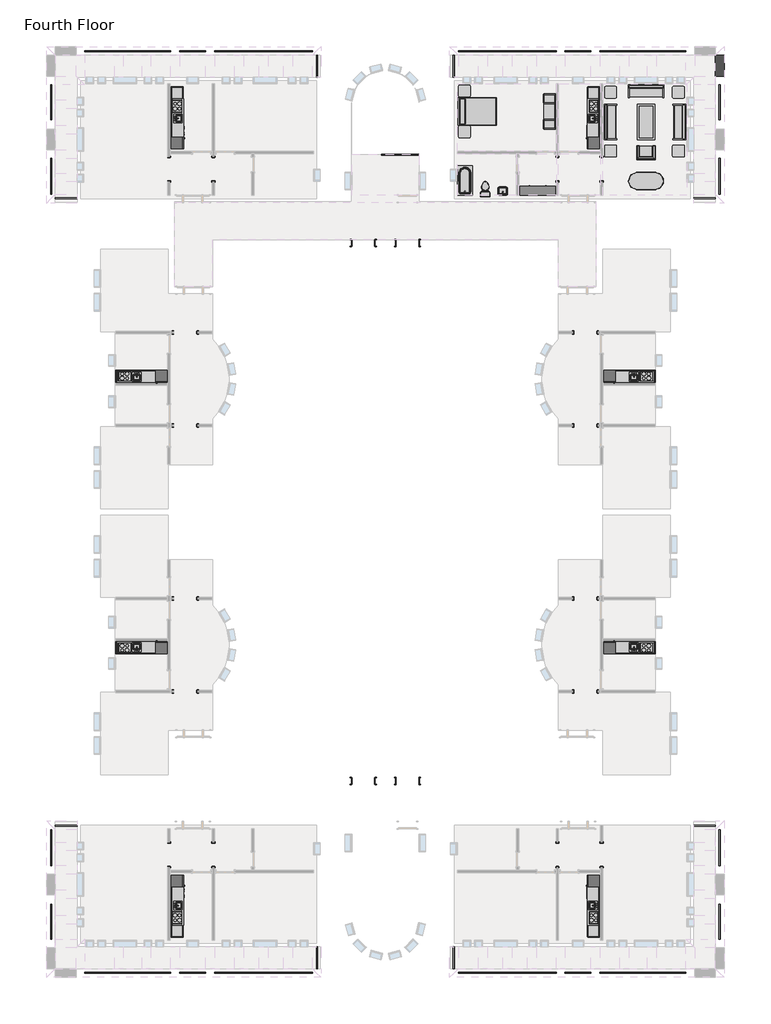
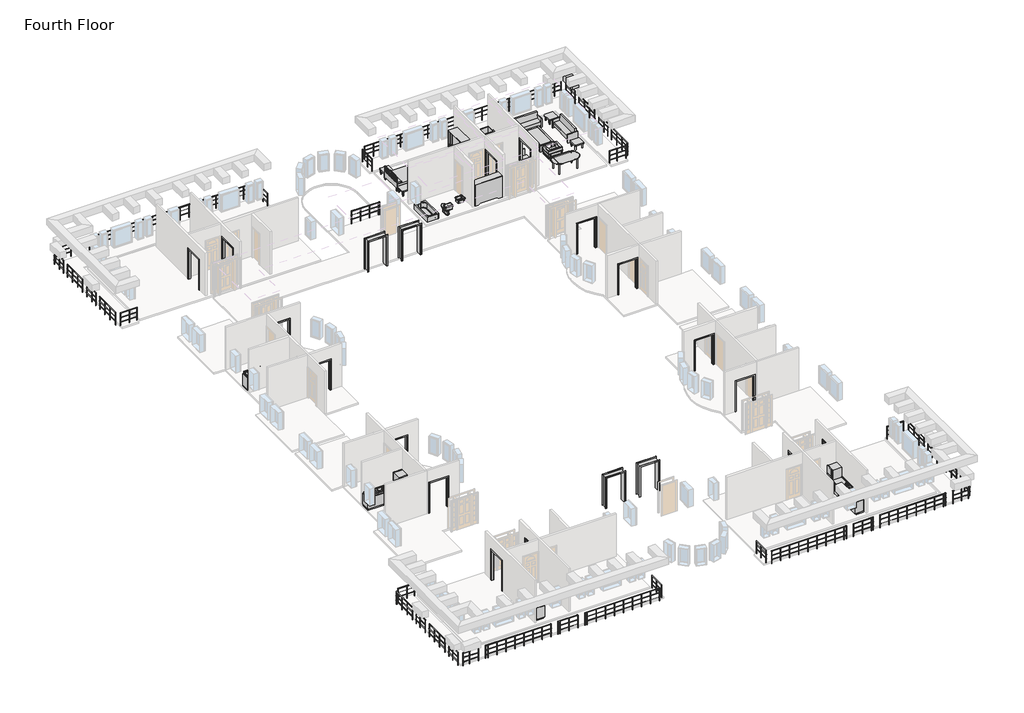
# One storey, part 5 of 5: 41 railings, 28 proxies, 15 furniture elements, 3 flow terminals, 1 beam.
"""IFC4 building model written with IfcOpenShell, lengths in millimetres."""

from ifc_helpers import new_model, si_unit, origin, place, context, project, spatial, faceted_brep, transform, mapped, element, save
from components import kitchenette_medium_5_9f73a4de, kitchenette_medium_5_952fb32b, proxy_64a468c4, proxy_b7eaed23, proxy_f44482cc, proxy_c3589814, proxy_d58c73d0, proxy_1659ed5c, flow_terminal_0aeb31e3, toilet_domestic_3d_toilet_domestic_3d_f7549cf7, toilet_domestic_3d_toilet_domestic_3d_183bbd19, tub_rectangular_3d_tub_rectangular_3d_5e45a89b, furniture_096e7f55, chair_corbu_chair_corbu_2764bdef, furniture_7c473f12, furniture_ddc78764, furniture_4ef38d96, furniture_cd93a443, furniture_2c34a4f9, furniture_3a588284, furniture_1befe2a2, handrail_rectangular_d1ca25f8, handrail_rectangular_875d33ba, handrail_rectangular_8bc6fbf6, handrail_rectangular_67571a7d, handrail_rectangular_91c8e9b7, handrail_rectangular_6d217318, handrail_rectangular_7e8bea4f, handrail_rectangular_05f14369, handrail_rectangular_2b1cd781, handrail_rectangular_ba614922, handrail_rectangular_85729334, handrail_rectangular_566bf06c, handrail_rectangular_c8469efc, handrail_rectangular_7fa22d97, handrail_rectangular_886fd0c0, handrail_rectangular_e9c0440f, handrail_rectangular_f802c7a6, handrail_rectangular_9a0f738c, handrail_rectangular_cdd016d1, handrail_rectangular_cacec26f, handrail_rectangular_1d374aff, handrail_rectangular_959c32e3, handrail_rectangular_5dab1a18, handrail_rectangular_501bc58b, handrail_rectangular_beab0f10, handrail_rectangular_068176ca, handrail_rectangular_d618f92a, handrail_rectangular_e16eda03, handrail_rectangular_b5dfc41f, handrail_rectangular_314316ab, handrail_rectangular_3d0c2979, handrail_rectangular_0d4586ac, handrail_rectangular_8255650b, handrail_rectangular_58c217f0, handrail_rectangular_f862a09f, handrail_rectangular_01a8bc3c, handrail_rectangular_d5c45918, handrail_rectangular_7ab70122, handrail_rectangular_3dd2ecd6, handrail_rectangular_2b43632d, handrail_rectangular_4e911a37

model = new_model("IFC4")

# Units and contexts
model_context = context("Model", 3, world=origin())
ifc_project = project(units=[si_unit("LENGTHUNIT", "METRE", prefix="MILLI")], contexts=[model_context])

# Site, building, storey
site = spatial("IfcSite", under=ifc_project)
building = spatial("IfcBuilding", under=site)
storey = spatial("IfcBuildingStorey", under=building, Name="Fourth Floor", Elevation=9144.0)

# Beam
placement = place(None, origin())
element("IfcBeam", 1, ObjectType="Concrete-Rectangular Beam : 18 x 18", at=placement, inside=storey, context=model_context, shape_type="Brep", body=[
    faceted_brep([(2551.1410437, 10674.8316867, 10668.0), (2093.9410437, 10674.8316867, 10668.0), (2093.9410437, 10674.8316867, 10210.8), (2551.1410437, 10674.8316867, 10210.8), (2551.1410437, 11754.3316867, 10668.0), (2551.1410437, 11754.3316867, 10210.8), (2093.9410437, 11754.3316867, 10210.8), (2093.9410437, 11754.3316867, 10668.0), (2093.9410437, 11741.6316867, 10668.0), (2093.9410437, 11741.6316867, 10210.8)], [[[0, 1, 2, 3]], [[4, 5, 6, 7]], [[1, 0, 4, 7, 8]], [[2, 1, 8, 7, 6, 9]], [[3, 2, 9, 6, 5]], [[0, 3, 5, 4]]]),
])

# Proxies
kitchenette_medium_5_shape = kitchenette_medium_5_9f73a4de(model_context)
element("IfcBuildingElementProxy", 2, Name="Kitchenette - Medium : 5'", ObjectType="Kitchenette - Medium : 5'", at=placement, inside=storey, context=model_context, shape_type="MappedRepresentation", body=[
    mapped(kitchenette_medium_5_shape, transform((-28112.6966612, -4494.4827414, 9144.0), x_axis=(1.0, 0.0, 0.0), y_axis=(0.0, 1.0, 0.0), z_axis=(0.0, 0.0, 1.0))),
])
element("IfcBuildingElementProxy", 3, Name="Kitchenette - Medium : 5'", ObjectType="Kitchenette - Medium : 5'", at=placement, inside=storey, context=model_context, shape_type="MappedRepresentation", body=[
    mapped(kitchenette_medium_5_shape, transform((-1757.6462514, -19113.8538852, 9144.0), x_axis=(-1.0, 0.0, 0.0), y_axis=(0.0, -1.0, 0.0), z_axis=(0.0, 0.0, 1.0))),
])
kitchenette_medium_5_2_shape = kitchenette_medium_5_952fb32b(model_context)
element("IfcBuildingElementProxy", 4, Name="Kitchenette - Medium : 5'", ObjectType="Kitchenette - Medium : 5'", at=placement, inside=storey, context=model_context, shape_type="MappedRepresentation", body=[
    mapped(kitchenette_medium_5_2_shape, transform((-1757.6462514, -4494.4827414, 9144.0), x_axis=(-1.0, 0.0, 0.0), y_axis=(0.0, -1.0, 0.0), z_axis=(0.0, 0.0, 1.0))),
])
element("IfcBuildingElementProxy", 5, Name="Kitchenette - Medium : 5'", ObjectType="Kitchenette - Medium : 5'", at=placement, inside=storey, context=model_context, shape_type="MappedRepresentation", body=[
    mapped(kitchenette_medium_5_2_shape, transform((-28112.6966612, -19113.8538852, 9144.0), x_axis=(1.0, 0.0, 0.0), y_axis=(0.0, 1.0, 0.0), z_axis=(0.0, 0.0, 1.0))),
])
proxy_shape = proxy_64a468c4(model_context)
element("IfcBuildingElementProxy", 6, Name="Kitchenette - Medium : 8'6\"", ObjectType="Kitchenette - Medium : 8'6\"", at=placement, inside=storey, context=model_context, shape_type="MappedRepresentation", body=[
    mapped(proxy_shape, transform((-3887.7589563, 8837.7956433, 9144.0), x_axis=(0.0, -1.0, 0.0), y_axis=(1.0, 0.0, 0.0), z_axis=(0.0, 0.0, 1.0))),
])
element("IfcBuildingElementProxy", 7, Name="Kitchenette - Medium : 8'6\"", ObjectType="Kitchenette - Medium : 8'6\"", at=placement, inside=storey, context=model_context, shape_type="MappedRepresentation", body=[
    mapped(proxy_shape, transform((-25982.5839563, -32446.1322699, 9144.0), x_axis=(0.0, 1.0, 0.0), y_axis=(-1.0, 0.0, 0.0), z_axis=(0.0, 0.0, 1.0))),
])
proxy_2_shape = proxy_b7eaed23(model_context)
element("IfcBuildingElementProxy", 8, Name="Kitchenette - Medium : 8'6\"", ObjectType="Kitchenette - Medium : 8'6\"", at=placement, inside=storey, context=model_context, shape_type="MappedRepresentation", body=[
    mapped(proxy_2_shape, transform((-25982.5839563, 8837.7956433, 9144.0), x_axis=(0.0, -1.0, 0.0), y_axis=(1.0, 0.0, 0.0), z_axis=(0.0, 0.0, 1.0))),
])
element("IfcBuildingElementProxy", 9, Name="Kitchenette - Medium : 8'6\"", ObjectType="Kitchenette - Medium : 8'6\"", at=placement, inside=storey, context=model_context, shape_type="MappedRepresentation", body=[
    mapped(proxy_2_shape, transform((-3887.7589563, -32446.1322699, 9144.0), x_axis=(0.0, 1.0, 0.0), y_axis=(-1.0, 0.0, 0.0), z_axis=(0.0, 0.0, 1.0))),
])
proxy_3_shape = proxy_f44482cc(model_context)
element("IfcBuildingElementProxy", 10, Name="Opening-Cased : 48\" x 84\"", ObjectType="Opening-Cased : 48\" x 84\"", at=placement, inside=storey, context=model_context, shape_type="MappedRepresentation", body=[
    mapped(proxy_3_shape, transform((-3773.4589563, 5882.4203434, 9144.0), x_axis=(0.0, 1.0, 0.0), y_axis=(-1.0, 0.0, 0.0), z_axis=(0.0, 0.0, 1.0))),
])
element("IfcBuildingElementProxy", 11, Name="Opening-Cased : 48\" x 84\"", ObjectType="Opening-Cased : 48\" x 84\"", at=placement, inside=storey, context=model_context, shape_type="MappedRepresentation", body=[
    mapped(proxy_3_shape, transform((-6059.4589563, 5866.04303, 9144.0), x_axis=(0.0, -1.0, 0.0), y_axis=(1.0, 0.0, 0.0), z_axis=(0.0, 0.0, 1.0))),
])
element("IfcBuildingElementProxy", 12, Name="Opening-Cased : 48\" x 84\"", ObjectType="Opening-Cased : 48\" x 84\"", at=placement, inside=storey, context=model_context, shape_type="MappedRepresentation", body=[
    mapped(proxy_3_shape, transform((-25250.4952996, -7344.8808133, 9144.0), x_axis=(1.0, 0.0, 0.0), y_axis=(0.0, 1.0, 0.0), z_axis=(0.0, 0.0, 1.0))),
])
element("IfcBuildingElementProxy", 13, Name="Opening-Cased : 48\" x 84\"", ObjectType="Opening-Cased : 48\" x 84\"", at=placement, inside=storey, context=model_context, shape_type="MappedRepresentation", body=[
    mapped(proxy_3_shape, transform((-25266.872613, -2547.4558133, 9144.0), x_axis=(-1.0, 0.0, 0.0), y_axis=(0.0, -1.0, 0.0), z_axis=(0.0, 0.0, 1.0))),
])
element("IfcBuildingElementProxy", 14, Name="Opening-Cased : 48\" x 84\"", ObjectType="Opening-Cased : 48\" x 84\"", at=placement, inside=storey, context=model_context, shape_type="MappedRepresentation", body=[
    mapped(proxy_3_shape, transform((-4619.847613, -16263.4558133, 9144.0), x_axis=(-1.0, 0.0, 0.0), y_axis=(0.0, -1.0, 0.0), z_axis=(0.0, 0.0, 1.0))),
])
element("IfcBuildingElementProxy", 15, Name="Opening-Cased : 48\" x 84\"", ObjectType="Opening-Cased : 48\" x 84\"", at=placement, inside=storey, context=model_context, shape_type="MappedRepresentation", body=[
    mapped(proxy_3_shape, transform((-4603.4702996, -21060.8808133, 9144.0), x_axis=(1.0, 0.0, 0.0), y_axis=(0.0, 1.0, 0.0), z_axis=(0.0, 0.0, 1.0))),
])
element("IfcBuildingElementProxy", 16, Name="Opening-Cased : 48\" x 84\"", ObjectType="Opening-Cased : 48\" x 84\"", at=placement, inside=storey, context=model_context, shape_type="MappedRepresentation", body=[
    mapped(proxy_3_shape, transform((-26096.8839563, -29490.75697, 9144.0), x_axis=(0.0, -1.0, 0.0), y_axis=(1.0, 0.0, 0.0), z_axis=(0.0, 0.0, 1.0))),
])
element("IfcBuildingElementProxy", 17, Name="Opening-Cased : 48\" x 84\"", ObjectType="Opening-Cased : 48\" x 84\"", at=placement, inside=storey, context=model_context, shape_type="MappedRepresentation", body=[
    mapped(proxy_3_shape, transform((-23810.8839563, -29474.3796566, 9144.0), x_axis=(0.0, 1.0, 0.0), y_axis=(-1.0, 0.0, 0.0), z_axis=(0.0, 0.0, 1.0))),
])
proxy_4_shape = proxy_c3589814(model_context)
element("IfcBuildingElementProxy", 18, Name="Opening-Cased : 48\" x 84\"", ObjectType="Opening-Cased : 48\" x 84\"", at=placement, inside=storey, context=model_context, shape_type="MappedRepresentation", body=[
    mapped(proxy_4_shape, transform((-16086.360113, 2064.2316867, 9144.0), x_axis=(-1.0, 0.0, 0.0), y_axis=(0.0, -1.0, 0.0), z_axis=(0.0, 0.0, 1.0))),
])
element("IfcBuildingElementProxy", 19, Name="Opening-Cased : 48\" x 84\"", ObjectType="Opening-Cased : 48\" x 84\"", at=placement, inside=storey, context=model_context, shape_type="MappedRepresentation", body=[
    mapped(proxy_4_shape, transform((-13800.360113, 2064.2316867, 9144.0), x_axis=(-1.0, 0.0, 0.0), y_axis=(0.0, -1.0, 0.0), z_axis=(0.0, 0.0, 1.0))),
])
proxy_5_shape = proxy_d58c73d0(model_context)
element("IfcBuildingElementProxy", 20, Name="Opening-Cased : 48\" x 84\"", ObjectType="Opening-Cased : 48\" x 84\"", at=placement, inside=storey, context=model_context, shape_type="MappedRepresentation", body=[
    mapped(proxy_5_shape, transform((-4619.847613, -7344.8808133, 9144.0), x_axis=(-1.0, 0.0, 0.0), y_axis=(0.0, -1.0, 0.0), z_axis=(0.0, 0.0, 1.0))),
])
element("IfcBuildingElementProxy", 21, Name="Opening-Cased : 48\" x 84\"", ObjectType="Opening-Cased : 48\" x 84\"", at=placement, inside=storey, context=model_context, shape_type="MappedRepresentation", body=[
    mapped(proxy_5_shape, transform((-4603.4702996, -2547.4558133, 9144.0), x_axis=(1.0, 0.0, 0.0), y_axis=(0.0, 1.0, 0.0), z_axis=(0.0, 0.0, 1.0))),
])
element("IfcBuildingElementProxy", 22, Name="Opening-Cased : 48\" x 84\"", ObjectType="Opening-Cased : 48\" x 84\"", at=placement, inside=storey, context=model_context, shape_type="MappedRepresentation", body=[
    mapped(proxy_5_shape, transform((-26096.8839563, 5882.4203434, 9144.0), x_axis=(0.0, 1.0, 0.0), y_axis=(-1.0, 0.0, 0.0), z_axis=(0.0, 0.0, 1.0))),
])
element("IfcBuildingElementProxy", 23, Name="Opening-Cased : 48\" x 84\"", ObjectType="Opening-Cased : 48\" x 84\"", at=placement, inside=storey, context=model_context, shape_type="MappedRepresentation", body=[
    mapped(proxy_5_shape, transform((-23810.8839563, 5866.04303, 9144.0), x_axis=(0.0, -1.0, 0.0), y_axis=(1.0, 0.0, 0.0), z_axis=(0.0, 0.0, 1.0))),
])
element("IfcBuildingElementProxy", 24, Name="Opening-Cased : 48\" x 84\"", ObjectType="Opening-Cased : 48\" x 84\"", at=placement, inside=storey, context=model_context, shape_type="MappedRepresentation", body=[
    mapped(proxy_5_shape, transform((-3773.4589563, -29490.75697, 9144.0), x_axis=(0.0, -1.0, 0.0), y_axis=(1.0, 0.0, 0.0), z_axis=(0.0, 0.0, 1.0))),
])
element("IfcBuildingElementProxy", 25, Name="Opening-Cased : 48\" x 84\"", ObjectType="Opening-Cased : 48\" x 84\"", at=placement, inside=storey, context=model_context, shape_type="MappedRepresentation", body=[
    mapped(proxy_5_shape, transform((-6059.4589563, -29474.3796566, 9144.0), x_axis=(0.0, 1.0, 0.0), y_axis=(-1.0, 0.0, 0.0), z_axis=(0.0, 0.0, 1.0))),
])
element("IfcBuildingElementProxy", 26, Name="Opening-Cased : 48\" x 84\"", ObjectType="Opening-Cased : 48\" x 84\"", at=placement, inside=storey, context=model_context, shape_type="MappedRepresentation", body=[
    mapped(proxy_5_shape, transform((-25250.4952996, -16263.4558133, 9144.0), x_axis=(1.0, 0.0, 0.0), y_axis=(0.0, 1.0, 0.0), z_axis=(0.0, 0.0, 1.0))),
])
element("IfcBuildingElementProxy", 27, Name="Opening-Cased : 48\" x 84\"", ObjectType="Opening-Cased : 48\" x 84\"", at=placement, inside=storey, context=model_context, shape_type="MappedRepresentation", body=[
    mapped(proxy_5_shape, transform((-25266.872613, -21060.8808133, 9144.0), x_axis=(-1.0, 0.0, 0.0), y_axis=(0.0, -1.0, 0.0), z_axis=(0.0, 0.0, 1.0))),
])
proxy_6_shape = proxy_1659ed5c(model_context)
element("IfcBuildingElementProxy", 28, Name="Opening-Cased : 48\" x 84\"", ObjectType="Opening-Cased : 48\" x 84\"", at=placement, inside=storey, context=model_context, shape_type="MappedRepresentation", body=[
    mapped(proxy_6_shape, transform((-16086.360113, -25672.5683133, 9144.0), x_axis=(-1.0, 0.0, 0.0), y_axis=(0.0, -1.0, 0.0), z_axis=(0.0, 0.0, 1.0))),
])
element("IfcBuildingElementProxy", 29, Name="Opening-Cased : 48\" x 84\"", ObjectType="Opening-Cased : 48\" x 84\"", at=placement, inside=storey, context=model_context, shape_type="MappedRepresentation", body=[
    mapped(proxy_6_shape, transform((-13800.360113, -25672.5683133, 9144.0), x_axis=(-1.0, 0.0, 0.0), y_axis=(0.0, -1.0, 0.0), z_axis=(0.0, 0.0, 1.0))),
])

# Flow terminals
flow_terminal_shape = flow_terminal_0aeb31e3(model_context)
element("IfcFlowTerminal", 30, ObjectType="Sink Vanity-Square : 24\" x 19\"", at=placement, inside=storey, context=model_context, shape_type="MappedRepresentation", body=[
    mapped(flow_terminal_shape, transform((-8864.7572157, 4706.5895878, 9144.0), x_axis=(-1.0, 0.0, 0.0), y_axis=(0.0, -1.0, 0.0), z_axis=(0.0, 0.0, 1.0))),
])
toilet_domestic_3d_toilet_domestic_3d_shape = toilet_domestic_3d_toilet_domestic_3d_f7549cf7(model_context)
toilet_domestic_3d_toilet_domestic_3d_2_shape = toilet_domestic_3d_toilet_domestic_3d_183bbd19(model_context)
element("IfcFlowTerminal", 31, ObjectType="Toilet-Domestic-3D : Toilet-Domestic-3D", at=placement, inside=storey, context=model_context, shape_type="MappedRepresentation", body=[
    mapped(toilet_domestic_3d_toilet_domestic_3d_shape, transform((-9782.1466587, 4940.866411, 9144.0), x_axis=(-1.0000000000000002, 0.0, 0.0), y_axis=(0.0, -1.0000000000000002, 0.0), z_axis=(0.0, 0.0, 1.0))),
    mapped(toilet_domestic_3d_toilet_domestic_3d_2_shape, transform((-9782.1466587, 4940.866411, 9144.0), x_axis=(-1.0000000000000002, 0.0, 0.0), y_axis=(0.0, -1.0000000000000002, 0.0), z_axis=(0.0, 0.0, 1.0))),
])
tub_rectangular_3d_tub_rectangular_3d_shape = tub_rectangular_3d_tub_rectangular_3d_5e45a89b(model_context)
element("IfcFlowTerminal", 32, ObjectType="Tub-Rectangular-3D : Tub-Rectangular-3D", at=placement, inside=storey, context=model_context, shape_type="MappedRepresentation", body=[
    mapped(tub_rectangular_3d_tub_rectangular_3d_shape, transform((-11393.4589563, 5637.0471554, 9144.0), x_axis=(0.0, 1.0, 0.0), y_axis=(-1.0, 0.0, 0.0), z_axis=(0.0, 0.0, 1.0))),
])

# Furniture
furniture_shape = furniture_096e7f55(model_context)
element("IfcFurniture", 33, ObjectType="Bed-Shaker : Double 56\" x 78\"", at=placement, inside=storey, context=model_context, shape_type="MappedRepresentation", body=[
    mapped(furniture_shape, transform((-11183.1982802, 8871.8755561, 9144.0), x_axis=(0.0, 1.0, 0.0), y_axis=(-1.0, 0.0, 0.0), z_axis=(0.0, 0.0, 1.0))),
])
chair_corbu_chair_corbu_shape = chair_corbu_chair_corbu_2764bdef(model_context)
element("IfcFurniture", 34, ObjectType="Chair-Corbu : Chair-Corbu", at=placement, inside=storey, context=model_context, shape_type="MappedRepresentation", body=[
    mapped(chair_corbu_chair_corbu_shape, transform((-914.0851858, 7193.4962359, 9144.0), x_axis=(-1.0, 0.0, 0.0), y_axis=(0.0, -1.0, 0.0), z_axis=(0.0, 0.0, 1.0))),
])
furniture_2_shape = furniture_7c473f12(model_context)
element("IfcFurniture", 35, ObjectType="Dresser : 72\" x 60\" x 18\"", at=placement, inside=storey, context=model_context, shape_type="MappedRepresentation", body=[
    mapped(furniture_2_shape, transform((-7344.6522161, 4404.5812326, 9144.0), x_axis=(-1.0, 0.0, 0.0), y_axis=(0.0, -1.0, 0.0), z_axis=(0.0, 0.0, 1.0))),
])
furniture_3_shape = furniture_ddc78764(model_context)
element("IfcFurniture", 36, ObjectType="Entertainment Center : 72\" x 72\" x 24\"", at=placement, inside=storey, context=model_context, shape_type="MappedRepresentation", body=[
    mapped(furniture_3_shape, transform((-6059.4589563, 8852.8255561, 9144.0), x_axis=(0.0, -1.0, 0.0), y_axis=(1.0, 0.0, 0.0), z_axis=(0.0, 0.0, 1.0))),
])
furniture_4_shape = furniture_4ef38d96(model_context)
element("IfcFurniture", 37, ObjectType="Sofa : 72\"", at=placement, inside=storey, context=model_context, shape_type="MappedRepresentation", body=[
    mapped(furniture_4_shape, transform((-1557.8294481, 9741.2775883, 9144.0), x_axis=(1.0, 0.0, 0.0), y_axis=(0.0, 1.0, 0.0), z_axis=(0.0, 0.0, 1.0))),
])
element("IfcFurniture", 38, ObjectType="Sofa : 72\"", at=placement, inside=storey, context=model_context, shape_type="MappedRepresentation", body=[
    mapped(furniture_4_shape, transform((93.5869453, 8383.0021785, 9144.0), x_axis=(0.0, -1.0, 0.0), y_axis=(1.0, 0.0, 0.0), z_axis=(0.0, 0.0, 1.0))),
])
element("IfcFurniture", 39, ObjectType="Sofa : 72\"", at=placement, inside=storey, context=model_context, shape_type="MappedRepresentation", body=[
    mapped(furniture_4_shape, transform((-3170.104858, 8242.2611949, 9144.0), x_axis=(0.0, 1.0, 0.0), y_axis=(-1.0, 0.0, 0.0), z_axis=(0.0, 0.0, 1.0))),
])
furniture_5_shape = furniture_cd93a443(model_context)
element("IfcFurniture", 40, ObjectType="Table-Coffee : 36\" x 72\" x 18\"", at=placement, inside=storey, context=model_context, shape_type="MappedRepresentation", body=[
    mapped(furniture_5_shape, transform((-1582.6700341, 8330.8974534, 9144.0), x_axis=(0.0, -1.0, 0.0), y_axis=(1.0, 0.0, 0.0), z_axis=(0.0, 0.0, 1.0))),
])
furniture_6_shape = furniture_2c34a4f9(model_context)
element("IfcFurniture", 41, ObjectType="Table-Dining Oval : 36\" x 72\"", at=placement, inside=storey, context=model_context, shape_type="MappedRepresentation", body=[
    mapped(furniture_6_shape, transform((-1085.6392842, 5622.7300473, 9144.0), x_axis=(1.0, 0.0, 0.0), y_axis=(0.0, 1.0, 0.0), z_axis=(0.0, 0.0, 1.0))),
])
furniture_7_shape = furniture_3a588284(model_context)
element("IfcFurniture", 42, ObjectType="Table-End : 24\" x 24\"", at=placement, inside=storey, context=model_context, shape_type="MappedRepresentation", body=[
    mapped(furniture_7_shape, transform((-119.5925866, 9684.2316867, 9144.0), x_axis=(1.0, 0.0, 0.0), y_axis=(0.0, 1.0, 0.0), z_axis=(0.0, 0.0, 1.0))),
])
element("IfcFurniture", 43, ObjectType="Table-End : 24\" x 24\"", at=placement, inside=storey, context=model_context, shape_type="MappedRepresentation", body=[
    mapped(furniture_7_shape, transform((-3624.7925866, 9684.2316867, 9144.0), x_axis=(1.0, 0.0, 0.0), y_axis=(0.0, 1.0, 0.0), z_axis=(0.0, 0.0, 1.0))),
])
element("IfcFurniture", 44, ObjectType="Table-End : 24\" x 24\"", at=placement, inside=storey, context=model_context, shape_type="MappedRepresentation", body=[
    mapped(furniture_7_shape, transform((-3624.7925866, 6660.0441867, 9144.0), x_axis=(1.0, 0.0, 0.0), y_axis=(0.0, 1.0, 0.0), z_axis=(0.0, 0.0, 1.0))),
])
element("IfcFurniture", 45, ObjectType="Table-End : 24\" x 24\"", at=placement, inside=storey, context=model_context, shape_type="MappedRepresentation", body=[
    mapped(furniture_7_shape, transform((-119.5925866, 6660.0441867, 9144.0), x_axis=(1.0, 0.0, 0.0), y_axis=(0.0, 1.0, 0.0), z_axis=(0.0, 0.0, 1.0))),
])
element("IfcFurniture", 46, ObjectType="Table-End : 24\" x 24\"", at=placement, inside=storey, context=model_context, shape_type="MappedRepresentation", body=[
    mapped(furniture_7_shape, transform((-11164.2346356, 9756.0737357, 9144.0), x_axis=(1.0, 0.0, 0.0), y_axis=(0.0, 1.0, 0.0), z_axis=(0.0, 0.0, 1.0))),
])
furniture_8_shape = furniture_1befe2a2(model_context)
element("IfcFurniture", 47, ObjectType="Table-End : 24\" x 24\"", at=placement, inside=storey, context=model_context, shape_type="MappedRepresentation", body=[
    mapped(furniture_8_shape, transform((-11164.2346356, 7949.5773764, 9144.0), x_axis=(1.0, 0.0, 0.0), y_axis=(0.0, 1.0, 0.0), z_axis=(0.0, 0.0, 1.0))),
])

# Railings
handrail_rectangular_shape = handrail_rectangular_d1ca25f8(model_context)
element("IfcRailing", 48, ObjectType="Handrail - Rectangular", at=placement, inside=storey, context=model_context, shape_type="MappedRepresentation", body=[
    mapped(handrail_rectangular_shape, transform((0.0, 0.0, 0.0), x_axis=(1.0, 0.0, 0.0), y_axis=(0.0, 1.0, 0.0), z_axis=(0.0, 0.0, 1.0))),
])
handrail_rectangular_2_shape = handrail_rectangular_875d33ba(model_context)
element("IfcRailing", 49, ObjectType="Handrail - Rectangular", at=placement, inside=storey, context=model_context, shape_type="MappedRepresentation", body=[
    mapped(handrail_rectangular_2_shape, transform((0.0, 0.0, 0.0), x_axis=(1.0, 0.0, 0.0), y_axis=(0.0, 1.0, 0.0), z_axis=(0.0, 0.0, 1.0))),
])
handrail_rectangular_3_shape = handrail_rectangular_8bc6fbf6(model_context)
element("IfcRailing", 50, ObjectType="Handrail - Rectangular", at=placement, inside=storey, context=model_context, shape_type="MappedRepresentation", body=[
    mapped(handrail_rectangular_3_shape, transform((0.0, 0.0, 0.0), x_axis=(1.0, 0.0, 0.0), y_axis=(0.0, 1.0, 0.0), z_axis=(0.0, 0.0, 1.0))),
])
handrail_rectangular_4_shape = handrail_rectangular_67571a7d(model_context)
element("IfcRailing", 51, ObjectType="Handrail - Rectangular", at=placement, inside=storey, context=model_context, shape_type="MappedRepresentation", body=[
    mapped(handrail_rectangular_4_shape, transform((0.0, 0.0, 0.0), x_axis=(1.0, 0.0, 0.0), y_axis=(0.0, 1.0, 0.0), z_axis=(0.0, 0.0, 1.0))),
])
handrail_rectangular_5_shape = handrail_rectangular_91c8e9b7(model_context)
element("IfcRailing", 52, ObjectType="Handrail - Rectangular", at=placement, inside=storey, context=model_context, shape_type="MappedRepresentation", body=[
    mapped(handrail_rectangular_5_shape, transform((0.0, 0.0, 0.0), x_axis=(1.0, 0.0, 0.0), y_axis=(0.0, 1.0, 0.0), z_axis=(0.0, 0.0, 1.0))),
])
handrail_rectangular_6_shape = handrail_rectangular_6d217318(model_context)
element("IfcRailing", 53, ObjectType="Handrail - Rectangular", at=placement, inside=storey, context=model_context, shape_type="MappedRepresentation", body=[
    mapped(handrail_rectangular_6_shape, transform((0.0, 0.0, 0.0), x_axis=(1.0, 0.0, 0.0), y_axis=(0.0, 1.0, 0.0), z_axis=(0.0, 0.0, 1.0))),
])
handrail_rectangular_7_shape = handrail_rectangular_7e8bea4f(model_context)
element("IfcRailing", 54, ObjectType="Handrail - Rectangular", at=placement, inside=storey, context=model_context, shape_type="MappedRepresentation", body=[
    mapped(handrail_rectangular_7_shape, transform((0.0, 0.0, 0.0), x_axis=(1.0, 0.0, 0.0), y_axis=(0.0, 1.0, 0.0), z_axis=(0.0, 0.0, 1.0))),
])
handrail_rectangular_8_shape = handrail_rectangular_05f14369(model_context)
element("IfcRailing", 55, ObjectType="Handrail - Rectangular", at=placement, inside=storey, context=model_context, shape_type="MappedRepresentation", body=[
    mapped(handrail_rectangular_8_shape, transform((0.0, 0.0, 0.0), x_axis=(1.0, 0.0, 0.0), y_axis=(0.0, 1.0, 0.0), z_axis=(0.0, 0.0, 1.0))),
])
handrail_rectangular_9_shape = handrail_rectangular_2b1cd781(model_context)
element("IfcRailing", 56, ObjectType="Handrail - Rectangular", at=placement, inside=storey, context=model_context, shape_type="MappedRepresentation", body=[
    mapped(handrail_rectangular_9_shape, transform((0.0, 0.0, 0.0), x_axis=(1.0, 0.0, 0.0), y_axis=(0.0, 1.0, 0.0), z_axis=(0.0, 0.0, 1.0))),
])
handrail_rectangular_10_shape = handrail_rectangular_ba614922(model_context)
element("IfcRailing", 57, ObjectType="Handrail - Rectangular", at=placement, inside=storey, context=model_context, shape_type="MappedRepresentation", body=[
    mapped(handrail_rectangular_10_shape, transform((0.0, 0.0, 0.0), x_axis=(1.0, 0.0, 0.0), y_axis=(0.0, 1.0, 0.0), z_axis=(0.0, 0.0, 1.0))),
])
handrail_rectangular_11_shape = handrail_rectangular_85729334(model_context)
element("IfcRailing", 58, ObjectType="Handrail - Rectangular", at=placement, inside=storey, context=model_context, shape_type="MappedRepresentation", body=[
    mapped(handrail_rectangular_11_shape, transform((0.0, 0.0, 0.0), x_axis=(1.0, 0.0, 0.0), y_axis=(0.0, 1.0, 0.0), z_axis=(0.0, 0.0, 1.0))),
])
handrail_rectangular_12_shape = handrail_rectangular_566bf06c(model_context)
element("IfcRailing", 59, ObjectType="Handrail - Rectangular", at=placement, inside=storey, context=model_context, shape_type="MappedRepresentation", body=[
    mapped(handrail_rectangular_12_shape, transform((0.0, 0.0, 0.0), x_axis=(1.0, 0.0, 0.0), y_axis=(0.0, 1.0, 0.0), z_axis=(0.0, 0.0, 1.0))),
])
handrail_rectangular_13_shape = handrail_rectangular_c8469efc(model_context)
element("IfcRailing", 60, ObjectType="Handrail - Rectangular", at=placement, inside=storey, context=model_context, shape_type="MappedRepresentation", body=[
    mapped(handrail_rectangular_13_shape, transform((0.0, 0.0, 0.0), x_axis=(1.0, 0.0, 0.0), y_axis=(0.0, 1.0, 0.0), z_axis=(0.0, 0.0, 1.0))),
])
handrail_rectangular_14_shape = handrail_rectangular_7fa22d97(model_context)
element("IfcRailing", 61, ObjectType="Handrail - Rectangular", at=placement, inside=storey, context=model_context, shape_type="MappedRepresentation", body=[
    mapped(handrail_rectangular_14_shape, transform((0.0, 0.0, 0.0), x_axis=(1.0, 0.0, 0.0), y_axis=(0.0, 1.0, 0.0), z_axis=(0.0, 0.0, 1.0))),
])
handrail_rectangular_15_shape = handrail_rectangular_886fd0c0(model_context)
element("IfcRailing", 62, ObjectType="Handrail - Rectangular", at=placement, inside=storey, context=model_context, shape_type="MappedRepresentation", body=[
    mapped(handrail_rectangular_15_shape, transform((0.0, 0.0, 0.0), x_axis=(1.0, 0.0, 0.0), y_axis=(0.0, 1.0, 0.0), z_axis=(0.0, 0.0, 1.0))),
])
handrail_rectangular_16_shape = handrail_rectangular_e9c0440f(model_context)
element("IfcRailing", 63, ObjectType="Handrail - Rectangular", at=placement, inside=storey, context=model_context, shape_type="MappedRepresentation", body=[
    mapped(handrail_rectangular_16_shape, transform((0.0, 0.0, 0.0), x_axis=(1.0, 0.0, 0.0), y_axis=(0.0, 1.0, 0.0), z_axis=(0.0, 0.0, 1.0))),
])
handrail_rectangular_17_shape = handrail_rectangular_f802c7a6(model_context)
element("IfcRailing", 64, ObjectType="Handrail - Rectangular", at=placement, inside=storey, context=model_context, shape_type="MappedRepresentation", body=[
    mapped(handrail_rectangular_17_shape, transform((0.0, 0.0, 0.0), x_axis=(1.0, 0.0, 0.0), y_axis=(0.0, 1.0, 0.0), z_axis=(0.0, 0.0, 1.0))),
])
handrail_rectangular_18_shape = handrail_rectangular_9a0f738c(model_context)
element("IfcRailing", 65, ObjectType="Handrail - Rectangular", at=placement, inside=storey, context=model_context, shape_type="MappedRepresentation", body=[
    mapped(handrail_rectangular_18_shape, transform((0.0, 0.0, 0.0), x_axis=(1.0, 0.0, 0.0), y_axis=(0.0, 1.0, 0.0), z_axis=(0.0, 0.0, 1.0))),
])
handrail_rectangular_19_shape = handrail_rectangular_cdd016d1(model_context)
element("IfcRailing", 66, ObjectType="Handrail - Rectangular", at=placement, inside=storey, context=model_context, shape_type="MappedRepresentation", body=[
    mapped(handrail_rectangular_19_shape, transform((0.0, 0.0, 0.0), x_axis=(1.0, 0.0, 0.0), y_axis=(0.0, 1.0, 0.0), z_axis=(0.0, 0.0, 1.0))),
])
handrail_rectangular_20_shape = handrail_rectangular_cacec26f(model_context)
element("IfcRailing", 67, ObjectType="Handrail - Rectangular", at=placement, inside=storey, context=model_context, shape_type="MappedRepresentation", body=[
    mapped(handrail_rectangular_20_shape, transform((0.0, 0.0, 0.0), x_axis=(1.0, 0.0, 0.0), y_axis=(0.0, 1.0, 0.0), z_axis=(0.0, 0.0, 1.0))),
])
handrail_rectangular_21_shape = handrail_rectangular_1d374aff(model_context)
element("IfcRailing", 68, ObjectType="Handrail - Rectangular", at=placement, inside=storey, context=model_context, shape_type="MappedRepresentation", body=[
    mapped(handrail_rectangular_21_shape, transform((0.0, 0.0, 0.0), x_axis=(1.0, 0.0, 0.0), y_axis=(0.0, 1.0, 0.0), z_axis=(0.0, 0.0, 1.0))),
])
handrail_rectangular_22_shape = handrail_rectangular_959c32e3(model_context)
element("IfcRailing", 69, ObjectType="Handrail - Rectangular", at=placement, inside=storey, context=model_context, shape_type="MappedRepresentation", body=[
    mapped(handrail_rectangular_22_shape, transform((0.0, 0.0, 0.0), x_axis=(1.0, 0.0, 0.0), y_axis=(0.0, 1.0, 0.0), z_axis=(0.0, 0.0, 1.0))),
])
handrail_rectangular_23_shape = handrail_rectangular_5dab1a18(model_context)
element("IfcRailing", 70, ObjectType="Handrail - Rectangular", at=placement, inside=storey, context=model_context, shape_type="MappedRepresentation", body=[
    mapped(handrail_rectangular_23_shape, transform((0.0, 0.0, 0.0), x_axis=(1.0, 0.0, 0.0), y_axis=(0.0, 1.0, 0.0), z_axis=(0.0, 0.0, 1.0))),
])
handrail_rectangular_24_shape = handrail_rectangular_501bc58b(model_context)
element("IfcRailing", 71, ObjectType="Handrail - Rectangular", at=placement, inside=storey, context=model_context, shape_type="MappedRepresentation", body=[
    mapped(handrail_rectangular_24_shape, transform((0.0, 0.0, 0.0), x_axis=(1.0, 0.0, 0.0), y_axis=(0.0, 1.0, 0.0), z_axis=(0.0, 0.0, 1.0))),
])
handrail_rectangular_25_shape = handrail_rectangular_beab0f10(model_context)
element("IfcRailing", 72, ObjectType="Handrail - Rectangular", at=placement, inside=storey, context=model_context, shape_type="MappedRepresentation", body=[
    mapped(handrail_rectangular_25_shape, transform((0.0, 0.0, 0.0), x_axis=(1.0, 0.0, 0.0), y_axis=(0.0, 1.0, 0.0), z_axis=(0.0, 0.0, 1.0))),
])
handrail_rectangular_26_shape = handrail_rectangular_068176ca(model_context)
element("IfcRailing", 73, ObjectType="Handrail - Rectangular", at=placement, inside=storey, context=model_context, shape_type="MappedRepresentation", body=[
    mapped(handrail_rectangular_26_shape, transform((0.0, 0.0, 0.0), x_axis=(1.0, 0.0, 0.0), y_axis=(0.0, 1.0, 0.0), z_axis=(0.0, 0.0, 1.0))),
])
handrail_rectangular_27_shape = handrail_rectangular_d618f92a(model_context)
element("IfcRailing", 74, ObjectType="Handrail - Rectangular", at=placement, inside=storey, context=model_context, shape_type="MappedRepresentation", body=[
    mapped(handrail_rectangular_27_shape, transform((0.0, 0.0, 0.0), x_axis=(1.0, 0.0, 0.0), y_axis=(0.0, 1.0, 0.0), z_axis=(0.0, 0.0, 1.0))),
])
handrail_rectangular_28_shape = handrail_rectangular_e16eda03(model_context)
element("IfcRailing", 75, ObjectType="Handrail - Rectangular", at=placement, inside=storey, context=model_context, shape_type="MappedRepresentation", body=[
    mapped(handrail_rectangular_28_shape, transform((0.0, 0.0, 0.0), x_axis=(1.0, 0.0, 0.0), y_axis=(0.0, 1.0, 0.0), z_axis=(0.0, 0.0, 1.0))),
])
handrail_rectangular_29_shape = handrail_rectangular_b5dfc41f(model_context)
element("IfcRailing", 76, ObjectType="Handrail - Rectangular", at=placement, inside=storey, context=model_context, shape_type="MappedRepresentation", body=[
    mapped(handrail_rectangular_29_shape, transform((0.0, 0.0, 0.0), x_axis=(1.0, 0.0, 0.0), y_axis=(0.0, 1.0, 0.0), z_axis=(0.0, 0.0, 1.0))),
])
handrail_rectangular_30_shape = handrail_rectangular_314316ab(model_context)
element("IfcRailing", 77, ObjectType="Handrail - Rectangular", at=placement, inside=storey, context=model_context, shape_type="MappedRepresentation", body=[
    mapped(handrail_rectangular_30_shape, transform((0.0, 0.0, 0.0), x_axis=(1.0, 0.0, 0.0), y_axis=(0.0, 1.0, 0.0), z_axis=(0.0, 0.0, 1.0))),
])
handrail_rectangular_31_shape = handrail_rectangular_3d0c2979(model_context)
element("IfcRailing", 78, ObjectType="Handrail - Rectangular", at=placement, inside=storey, context=model_context, shape_type="MappedRepresentation", body=[
    mapped(handrail_rectangular_31_shape, transform((0.0, 0.0, 0.0), x_axis=(1.0, 0.0, 0.0), y_axis=(0.0, 1.0, 0.0), z_axis=(0.0, 0.0, 1.0))),
])
handrail_rectangular_32_shape = handrail_rectangular_0d4586ac(model_context)
element("IfcRailing", 79, ObjectType="Handrail - Rectangular", at=placement, inside=storey, context=model_context, shape_type="MappedRepresentation", body=[
    mapped(handrail_rectangular_32_shape, transform((0.0, 0.0, 0.0), x_axis=(1.0, 0.0, 0.0), y_axis=(0.0, 1.0, 0.0), z_axis=(0.0, 0.0, 1.0))),
])
handrail_rectangular_33_shape = handrail_rectangular_8255650b(model_context)
element("IfcRailing", 80, ObjectType="Handrail - Rectangular", at=placement, inside=storey, context=model_context, shape_type="MappedRepresentation", body=[
    mapped(handrail_rectangular_33_shape, transform((0.0, 0.0, 0.0), x_axis=(1.0, 0.0, 0.0), y_axis=(0.0, 1.0, 0.0), z_axis=(0.0, 0.0, 1.0))),
])
handrail_rectangular_34_shape = handrail_rectangular_58c217f0(model_context)
element("IfcRailing", 81, ObjectType="Handrail - Rectangular", at=placement, inside=storey, context=model_context, shape_type="MappedRepresentation", body=[
    mapped(handrail_rectangular_34_shape, transform((0.0, 0.0, 0.0), x_axis=(1.0, 0.0, 0.0), y_axis=(0.0, 1.0, 0.0), z_axis=(0.0, 0.0, 1.0))),
])
handrail_rectangular_35_shape = handrail_rectangular_f862a09f(model_context)
element("IfcRailing", 82, ObjectType="Handrail - Rectangular", at=placement, inside=storey, context=model_context, shape_type="MappedRepresentation", body=[
    mapped(handrail_rectangular_35_shape, transform((0.0, 0.0, 0.0), x_axis=(1.0, 0.0, 0.0), y_axis=(0.0, 1.0, 0.0), z_axis=(0.0, 0.0, 1.0))),
])
handrail_rectangular_36_shape = handrail_rectangular_01a8bc3c(model_context)
element("IfcRailing", 83, ObjectType="Handrail - Rectangular", at=placement, inside=storey, context=model_context, shape_type="MappedRepresentation", body=[
    mapped(handrail_rectangular_36_shape, transform((0.0, 0.0, 0.0), x_axis=(1.0, 0.0, 0.0), y_axis=(0.0, 1.0, 0.0), z_axis=(0.0, 0.0, 1.0))),
])
handrail_rectangular_37_shape = handrail_rectangular_d5c45918(model_context)
element("IfcRailing", 84, ObjectType="Handrail - Rectangular", at=placement, inside=storey, context=model_context, shape_type="MappedRepresentation", body=[
    mapped(handrail_rectangular_37_shape, transform((0.0, 0.0, 0.0), x_axis=(1.0, 0.0, 0.0), y_axis=(0.0, 1.0, 0.0), z_axis=(0.0, 0.0, 1.0))),
])
handrail_rectangular_38_shape = handrail_rectangular_7ab70122(model_context)
element("IfcRailing", 85, ObjectType="Handrail - Rectangular", at=placement, inside=storey, context=model_context, shape_type="MappedRepresentation", body=[
    mapped(handrail_rectangular_38_shape, transform((0.0, 0.0, 0.0), x_axis=(1.0, 0.0, 0.0), y_axis=(0.0, 1.0, 0.0), z_axis=(0.0, 0.0, 1.0))),
])
handrail_rectangular_39_shape = handrail_rectangular_3dd2ecd6(model_context)
element("IfcRailing", 86, ObjectType="Handrail - Rectangular", at=placement, inside=storey, context=model_context, shape_type="MappedRepresentation", body=[
    mapped(handrail_rectangular_39_shape, transform((0.0, 0.0, 0.0), x_axis=(1.0, 0.0, 0.0), y_axis=(0.0, 1.0, 0.0), z_axis=(0.0, 0.0, 1.0))),
])
handrail_rectangular_40_shape = handrail_rectangular_2b43632d(model_context)
element("IfcRailing", 87, ObjectType="Handrail - Rectangular", at=placement, inside=storey, context=model_context, shape_type="MappedRepresentation", body=[
    mapped(handrail_rectangular_40_shape, transform((0.0, 0.0, 0.0), x_axis=(1.0, 0.0, 0.0), y_axis=(0.0, 1.0, 0.0), z_axis=(0.0, 0.0, 1.0))),
])
handrail_rectangular_41_shape = handrail_rectangular_4e911a37(model_context)
element("IfcRailing", 88, ObjectType="Handrail - Rectangular", at=placement, inside=storey, context=model_context, shape_type="MappedRepresentation", body=[
    mapped(handrail_rectangular_41_shape, transform((0.0, 0.0, 0.0), x_axis=(1.0, 0.0, 0.0), y_axis=(0.0, 1.0, 0.0), z_axis=(0.0, 0.0, 1.0))),
])

save(model, "model.ifc")
